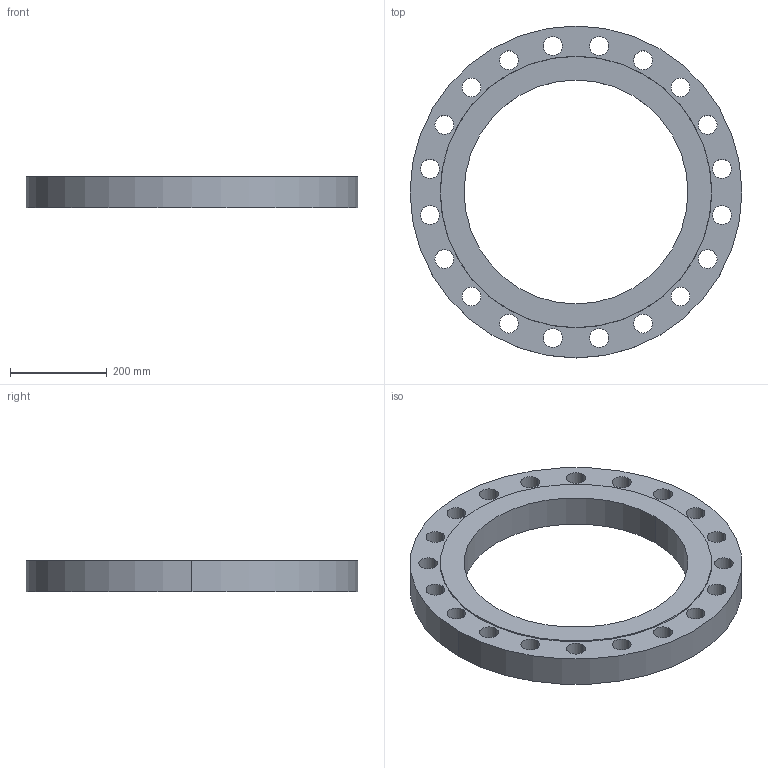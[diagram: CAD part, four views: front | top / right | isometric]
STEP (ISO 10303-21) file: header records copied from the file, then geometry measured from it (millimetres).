
FILE_DESCRIPTION (( 'STEP AP214' ), '1' );
FILE_NAME ('PN40 DN450 Type 01 - Type B Face.STEP', '2018-12-29T02:52:26', ( '' ), ( '' ), 'SwSTEP 2.0', 'SolidWorks 2019', '' );
FILE_SCHEMA (( 'AUTOMOTIVE_DESIGN' ));
Length unit declared in the file: millimetre
Products named in the file (1): PN40 DN450 Type 01 - Type B Face
Bounding box: 685 x 685 x 66 mm (x, y, z)
Volume: 11485824.8 mm3; surface area: 747299.7 mm2
Topology: 1 solids, 1 shells, 49 faces, 138 edges, 92 vertices
Faces by surface type: cylinder 44, plane 3, cone 2
Entity records: 1762 total; most frequent: DIRECTION 330, CARTESIAN_POINT 280, ORIENTED_EDGE 276, AXIS2_PLACEMENT_3D 142, EDGE_CURVE 138, CIRCLE 92, EDGE_LOOP 92, VERTEX_POINT 92
